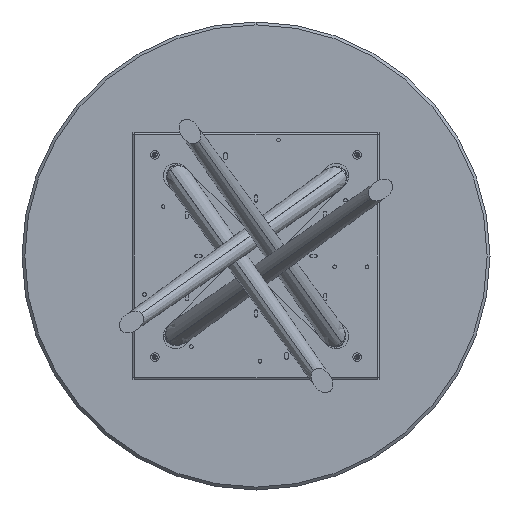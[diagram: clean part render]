
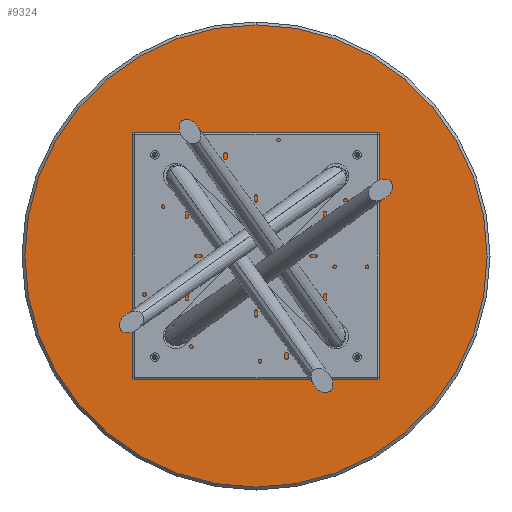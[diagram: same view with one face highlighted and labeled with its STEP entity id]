
A CAD part, front view. The second image highlights one B-rep face of the part: STEP entity #9324.
In plain terms, the highlighted planar face has unit normal (0, -1, 0).
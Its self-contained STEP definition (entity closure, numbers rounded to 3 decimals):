
#675 = CARTESIAN_POINT ( 'NONE',  ( 0., 0., 0. ) ) ;
#934 = VERTEX_POINT ( 'NONE', #15691 ) ;
#1612 = DIRECTION ( 'NONE',  ( 0., 0., -1. ) ) ;
#2976 = ORIENTED_EDGE ( 'NONE', *, *, #8040, .T. ) ;
#3090 = DIRECTION ( 'NONE',  ( 0., 0., -1. ) ) ;
#3519 = EDGE_CURVE ( 'NONE', #13423, #934, #12167, .T. ) ;
#4448 = AXIS2_PLACEMENT_3D ( 'NONE', #675, #5815, #1612 ) ;
#5044 = DIRECTION ( 'NONE',  ( 0., -1., 0. ) ) ;
#5492 = FACE_OUTER_BOUND ( 'NONE', #7322, .T. ) ;
#5672 = AXIS2_PLACEMENT_3D ( 'NONE', #10628, #5782, #3090 ) ;
#5782 = DIRECTION ( 'NONE',  ( 0., -1., 0. ) ) ;
#5815 = DIRECTION ( 'NONE',  ( 0., -1., 0. ) ) ;
#7322 = EDGE_LOOP ( 'NONE', ( #9247, #2976 ) ) ;
#8040 = EDGE_CURVE ( 'NONE', #934, #13423, #10610, .T. ) ;
#9247 = ORIENTED_EDGE ( 'NONE', *, *, #3519, .T. ) ;
#9324 = ADVANCED_FACE ( 'NONE', ( #5492 ), #12258, .T. ) ;
#9546 = AXIS2_PLACEMENT_3D ( 'NONE', #11390, #5044, #10038 ) ;
#10038 = DIRECTION ( 'NONE',  ( 0., 0., -1. ) ) ;
#10610 = CIRCLE ( 'NONE', #9546, 642. ) ;
#10628 = CARTESIAN_POINT ( 'NONE',  ( 0., 0., 0. ) ) ;
#11390 = CARTESIAN_POINT ( 'NONE',  ( 0., 0., 0. ) ) ;
#12167 = CIRCLE ( 'NONE', #5672, 642. ) ;
#12258 = PLANE ( 'NONE',  #4448 ) ;
#13423 = VERTEX_POINT ( 'NONE', #14172 ) ;
#14172 = CARTESIAN_POINT ( 'NONE',  ( 0., 0., 642. ) ) ;
#15691 = CARTESIAN_POINT ( 'NONE',  ( 0., 0., -642. ) ) ;
